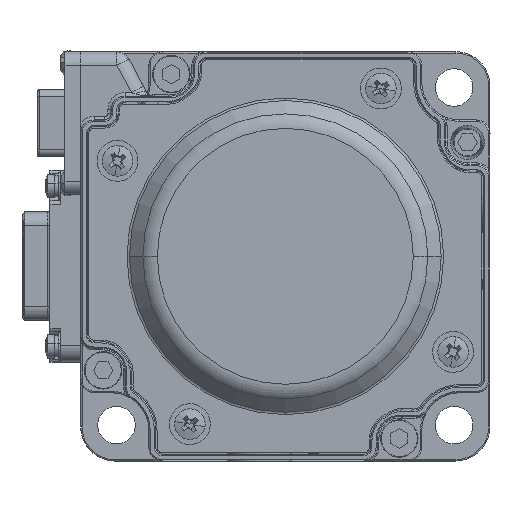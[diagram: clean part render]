
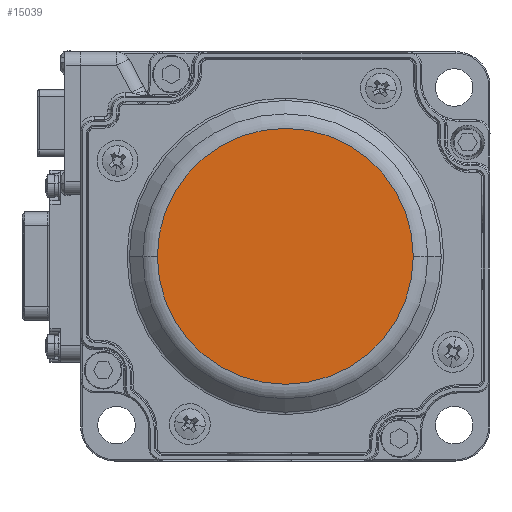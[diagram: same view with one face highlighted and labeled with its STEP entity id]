
A CAD part, left-side view. The second image highlights one B-rep face of the part: STEP entity #15039.
In plain terms, the highlighted planar face has unit normal (-1, 0, 0).
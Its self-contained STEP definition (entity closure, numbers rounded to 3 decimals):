
#3610 = VERTEX_POINT ( 'NONE', #27598 ) ;
#5452 = FACE_OUTER_BOUND ( 'NONE', #57636, .T. ) ;
#6939 = DIRECTION ( 'NONE',  ( 0., 1., 0. ) ) ;
#10251 = PLANE ( 'NONE',  #44196 ) ;
#12833 = CIRCLE ( 'NONE', #41742, 18.757 ) ;
#15039 = ADVANCED_FACE ( 'NONE', ( #5452 ), #10251, .F. ) ;
#25310 = CARTESIAN_POINT ( 'NONE',  ( -105.185, -31.58, 157.079 ) ) ;
#25612 = DIRECTION ( 'NONE',  ( -1., 0., 0. ) ) ;
#25707 = AXIS2_PLACEMENT_3D ( 'NONE', #39978, #26154, #43395 ) ;
#26154 = DIRECTION ( 'NONE',  ( -1., 0., 0. ) ) ;
#27598 = CARTESIAN_POINT ( 'NONE',  ( -105.185, -50.337, 157.079 ) ) ;
#27886 = EDGE_CURVE ( 'NONE', #41423, #3610, #12833, .T. ) ;
#30415 = CARTESIAN_POINT ( 'NONE',  ( -105.185, -11.58, 157.079 ) ) ;
#33291 = ORIENTED_EDGE ( 'NONE', *, *, #40670, .T. ) ;
#37249 = CIRCLE ( 'NONE', #25707, 18.757 ) ;
#37553 = CARTESIAN_POINT ( 'NONE',  ( -105.185, -12.823, 157.079 ) ) ;
#38841 = DIRECTION ( 'NONE',  ( 0., 1., 0. ) ) ;
#39978 = CARTESIAN_POINT ( 'NONE',  ( -105.185, -31.58, 157.079 ) ) ;
#40670 = EDGE_CURVE ( 'NONE', #3610, #41423, #37249, .T. ) ;
#41423 = VERTEX_POINT ( 'NONE', #37553 ) ;
#41742 = AXIS2_PLACEMENT_3D ( 'NONE', #25310, #25612, #6939 ) ;
#43395 = DIRECTION ( 'NONE',  ( 0., 1., 0. ) ) ;
#43745 = ORIENTED_EDGE ( 'NONE', *, *, #27886, .T. ) ;
#44196 = AXIS2_PLACEMENT_3D ( 'NONE', #30415, #57543, #38841 ) ;
#57543 = DIRECTION ( 'NONE',  ( 1., 0., 0. ) ) ;
#57636 = EDGE_LOOP ( 'NONE', ( #43745, #33291 ) ) ;
